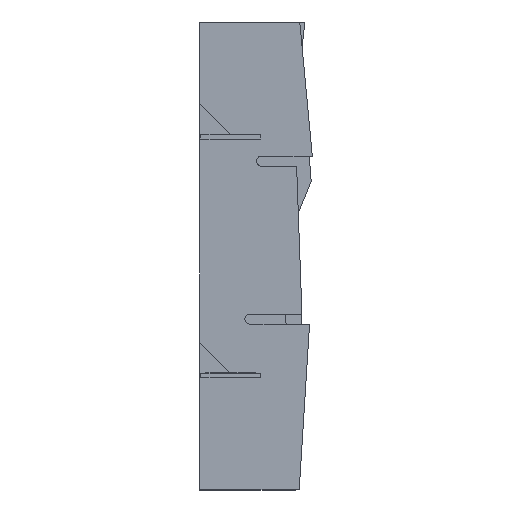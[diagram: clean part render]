
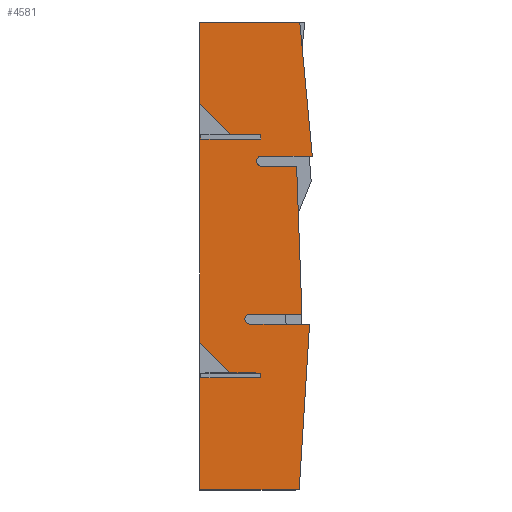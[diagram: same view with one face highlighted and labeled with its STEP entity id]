
A CAD part, left-side view. The second image highlights one B-rep face of the part: STEP entity #4581.
In plain terms, the highlighted planar face has unit normal (-1, 0, 0) as drawn and (0, 0, 1) by its records, which use the part's own axes.
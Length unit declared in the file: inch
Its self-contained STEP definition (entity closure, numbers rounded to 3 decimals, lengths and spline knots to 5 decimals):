
#66=CIRCLE('',#4931,0.49739);
#68=CIRCLE('',#4934,0.49739);
#70=CIRCLE('',#4938,0.49739);
#72=CIRCLE('',#4941,0.49739);
#338=FACE_OUTER_BOUND('',#575,.T.);
#575=EDGE_LOOP('',(#4033,#4034,#4035,#4036,#4037,#4038,#4039,#4040,#4041,
#4042,#4043,#4044,#4045,#4046,#4047,#4048,#4049,#4050,#4051,#4052,#4053,
#4054,#4055,#4056,#4057,#4058,#4059,#4060));
#1104=LINE('',#7238,#1715);
#1110=LINE('',#7259,#1721);
#1114=LINE('',#7266,#1725);
#1117=LINE('',#7272,#1728);
#1120=LINE('',#7280,#1731);
#1124=LINE('',#7287,#1735);
#1126=LINE('',#7290,#1737);
#1129=LINE('',#7296,#1740);
#1147=LINE('',#7330,#1758);
#1148=LINE('',#7332,#1759);
#1150=LINE('',#7337,#1761);
#1152=LINE('',#7340,#1763);
#1154=LINE('',#7344,#1765);
#1156=LINE('',#7348,#1767);
#1158=LINE('',#7353,#1769);
#1161=LINE('',#7358,#1772);
#1163=LINE('',#7362,#1774);
#1165=LINE('',#7367,#1776);
#1168=LINE('',#7372,#1779);
#1169=LINE('',#7374,#1780);
#1170=LINE('',#7377,#1781);
#1171=LINE('',#7378,#1782);
#1172=LINE('',#7379,#1783);
#1173=LINE('',#7380,#1784);
#1715=VECTOR('',#5941,0.3937);
#1721=VECTOR('',#5961,0.3937);
#1725=VECTOR('',#5967,0.3937);
#1728=VECTOR('',#5972,0.3937);
#1731=VECTOR('',#5977,0.3937);
#1735=VECTOR('',#5983,0.3937);
#1737=VECTOR('',#5987,0.3937);
#1740=VECTOR('',#5992,0.3937);
#1758=VECTOR('',#6014,0.3937);
#1759=VECTOR('',#6017,0.3937);
#1761=VECTOR('',#6021,0.3937);
#1763=VECTOR('',#6025,0.3937);
#1765=VECTOR('',#6029,0.3937);
#1767=VECTOR('',#6033,0.3937);
#1769=VECTOR('',#6037,0.3937);
#1772=VECTOR('',#6042,0.3937);
#1774=VECTOR('',#6046,0.3937);
#1776=VECTOR('',#6050,0.3937);
#1779=VECTOR('',#6055,0.3937);
#1780=VECTOR('',#6058,0.3937);
#1781=VECTOR('',#6061,0.3937);
#1782=VECTOR('',#6062,0.3937);
#1783=VECTOR('',#6063,0.3937);
#1784=VECTOR('',#6064,0.3937);
#2164=VERTEX_POINT('',#7220);
#2165=VERTEX_POINT('',#7222);
#2167=VERTEX_POINT('',#7228);
#2170=VERTEX_POINT('',#7235);
#2171=VERTEX_POINT('',#7237);
#2173=VERTEX_POINT('',#7243);
#2175=VERTEX_POINT('',#7249);
#2178=VERTEX_POINT('',#7256);
#2179=VERTEX_POINT('',#7258);
#2181=VERTEX_POINT('',#7264);
#2183=VERTEX_POINT('',#7270);
#2186=VERTEX_POINT('',#7277);
#2187=VERTEX_POINT('',#7279);
#2189=VERTEX_POINT('',#7285);
#2191=VERTEX_POINT('',#7294);
#2205=VERTEX_POINT('',#7328);
#2206=VERTEX_POINT('',#7334);
#2207=VERTEX_POINT('',#7336);
#2208=VERTEX_POINT('',#7342);
#2209=VERTEX_POINT('',#7346);
#2210=VERTEX_POINT('',#7350);
#2211=VERTEX_POINT('',#7352);
#2212=VERTEX_POINT('',#7356);
#2213=VERTEX_POINT('',#7360);
#2214=VERTEX_POINT('',#7364);
#2215=VERTEX_POINT('',#7366);
#2216=VERTEX_POINT('',#7370);
#2217=VERTEX_POINT('',#7376);
#2759=EDGE_CURVE('',#2165,#2164,#66,.T.);
#2763=EDGE_CURVE('',#2164,#2167,#68,.T.);
#2766=EDGE_CURVE('',#2171,#2170,#1104,.T.);
#2770=EDGE_CURVE('',#2170,#2173,#70,.T.);
#2773=EDGE_CURVE('',#2173,#2175,#72,.T.);
#2776=EDGE_CURVE('',#2179,#2178,#1110,.T.);
#2780=EDGE_CURVE('',#2178,#2181,#1114,.T.);
#2783=EDGE_CURVE('',#2181,#2183,#1117,.T.);
#2786=EDGE_CURVE('',#2187,#2186,#1120,.T.);
#2790=EDGE_CURVE('',#2186,#2189,#1124,.T.);
#2792=EDGE_CURVE('',#2189,#2179,#1126,.T.);
#2795=EDGE_CURVE('',#2183,#2191,#1129,.T.);
#2813=EDGE_CURVE('',#2167,#2205,#1147,.T.);
#2814=EDGE_CURVE('',#2205,#2171,#1148,.T.);
#2816=EDGE_CURVE('',#2207,#2206,#1150,.T.);
#2818=EDGE_CURVE('',#2206,#2165,#1152,.T.);
#2820=EDGE_CURVE('',#2175,#2208,#1154,.T.);
#2822=EDGE_CURVE('',#2208,#2209,#1156,.T.);
#2824=EDGE_CURVE('',#2211,#2210,#1158,.T.);
#2827=EDGE_CURVE('',#2210,#2212,#1161,.T.);
#2829=EDGE_CURVE('',#2212,#2213,#1163,.T.);
#2831=EDGE_CURVE('',#2215,#2214,#1165,.T.);
#2834=EDGE_CURVE('',#2214,#2216,#1168,.T.);
#2835=EDGE_CURVE('',#2216,#2211,#1169,.T.);
#2836=EDGE_CURVE('',#2209,#2217,#1170,.T.);
#2837=EDGE_CURVE('',#2217,#2215,#1171,.T.);
#2838=EDGE_CURVE('',#2213,#2187,#1172,.T.);
#2839=EDGE_CURVE('',#2191,#2207,#1173,.T.);
#4033=ORIENTED_EDGE('',*,*,#2813,.T.);
#4034=ORIENTED_EDGE('',*,*,#2814,.T.);
#4035=ORIENTED_EDGE('',*,*,#2766,.T.);
#4036=ORIENTED_EDGE('',*,*,#2770,.T.);
#4037=ORIENTED_EDGE('',*,*,#2773,.T.);
#4038=ORIENTED_EDGE('',*,*,#2820,.T.);
#4039=ORIENTED_EDGE('',*,*,#2822,.T.);
#4040=ORIENTED_EDGE('',*,*,#2836,.T.);
#4041=ORIENTED_EDGE('',*,*,#2837,.T.);
#4042=ORIENTED_EDGE('',*,*,#2831,.T.);
#4043=ORIENTED_EDGE('',*,*,#2834,.T.);
#4044=ORIENTED_EDGE('',*,*,#2835,.T.);
#4045=ORIENTED_EDGE('',*,*,#2824,.T.);
#4046=ORIENTED_EDGE('',*,*,#2827,.T.);
#4047=ORIENTED_EDGE('',*,*,#2829,.T.);
#4048=ORIENTED_EDGE('',*,*,#2838,.T.);
#4049=ORIENTED_EDGE('',*,*,#2786,.T.);
#4050=ORIENTED_EDGE('',*,*,#2790,.T.);
#4051=ORIENTED_EDGE('',*,*,#2792,.T.);
#4052=ORIENTED_EDGE('',*,*,#2776,.T.);
#4053=ORIENTED_EDGE('',*,*,#2780,.T.);
#4054=ORIENTED_EDGE('',*,*,#2783,.T.);
#4055=ORIENTED_EDGE('',*,*,#2795,.T.);
#4056=ORIENTED_EDGE('',*,*,#2839,.T.);
#4057=ORIENTED_EDGE('',*,*,#2816,.T.);
#4058=ORIENTED_EDGE('',*,*,#2818,.T.);
#4059=ORIENTED_EDGE('',*,*,#2759,.T.);
#4060=ORIENTED_EDGE('',*,*,#2763,.T.);
#4344=PLANE('',#4962);
#4581=ADVANCED_FACE('',(#338),#4344,.T.);
#4931=AXIS2_PLACEMENT_3D('',#7223,#5927,#5928);
#4934=AXIS2_PLACEMENT_3D('',#7230,#5935,#5936);
#4938=AXIS2_PLACEMENT_3D('',#7245,#5948,#5949);
#4941=AXIS2_PLACEMENT_3D('',#7251,#5955,#5956);
#4962=AXIS2_PLACEMENT_3D('',#7375,#6059,#6060);
#5927=DIRECTION('center_axis',(0.,0.,-1.));
#5928=DIRECTION('ref_axis',(-0.005,1.,0.));
#5935=DIRECTION('center_axis',(0.,0.,-1.));
#5936=DIRECTION('ref_axis',(1.,-0.005,0.));
#5941=DIRECTION('',(0.,1.,0.));
#5948=DIRECTION('center_axis',(0.,0.,-1.));
#5949=DIRECTION('ref_axis',(-0.005,1.,0.));
#5955=DIRECTION('center_axis',(0.,0.,-1.));
#5956=DIRECTION('ref_axis',(1.,-0.005,0.));
#5961=DIRECTION('',(0.,1.,0.));
#5967=DIRECTION('',(1.,0.,0.));
#5972=DIRECTION('',(0.,1.,0.));
#5977=DIRECTION('',(-0.703,-0.711,0.));
#5983=DIRECTION('',(0.,-1.,0.));
#5987=DIRECTION('',(-1.,0.,0.));
#5992=DIRECTION('',(-1.,0.,0.));
#6014=DIRECTION('',(0.,-1.,0.));
#6017=DIRECTION('',(0.999,0.036,0.));
#6021=DIRECTION('',(0.998,-0.062,0.));
#6025=DIRECTION('',(0.,1.,0.));
#6029=DIRECTION('',(0.,-1.,0.));
#6033=DIRECTION('',(0.996,0.093,0.));
#6037=DIRECTION('',(0.,1.,0.));
#6042=DIRECTION('',(1.,0.,0.));
#6046=DIRECTION('',(0.,1.,0.));
#6050=DIRECTION('',(-0.703,-0.711,0.));
#6055=DIRECTION('',(0.,-1.,0.));
#6058=DIRECTION('',(-1.,0.,0.));
#6059=DIRECTION('center_axis',(0.,0.,1.));
#6060=DIRECTION('ref_axis',(1.,0.,0.));
#6061=DIRECTION('',(0.,1.,0.));
#6062=DIRECTION('',(-1.,0.,0.));
#6063=DIRECTION('',(-1.,0.,0.));
#6064=DIRECTION('',(0.,-1.,0.));
#7220=CARTESIAN_POINT('',(17.16002,5.45844,0.48));
#7222=CARTESIAN_POINT('',(16.66528,4.95844,0.48));
#7223=CARTESIAN_POINT('Origin',(17.16267,4.96106,0.48));
#7228=CARTESIAN_POINT('',(17.65476,4.95844,0.48));
#7230=CARTESIAN_POINT('Origin',(17.15738,4.96106,0.48));
#7235=CARTESIAN_POINT('',(32.52777,3.79834,0.48));
#7237=CARTESIAN_POINT('',(32.52777,0.263,0.48));
#7238=CARTESIAN_POINT('',(32.52777,4.39917,0.48));
#7243=CARTESIAN_POINT('',(33.02251,4.29834,0.48));
#7245=CARTESIAN_POINT('Origin',(33.02515,3.80095,0.48));
#7249=CARTESIAN_POINT('',(33.51724,3.79834,0.48));
#7251=CARTESIAN_POINT('Origin',(33.01986,3.80095,0.48));
#7256=CARTESIAN_POINT('',(11.25,9.375,0.48));
#7258=CARTESIAN_POINT('',(11.25,4.375,0.48));
#7259=CARTESIAN_POINT('',(11.25,7.1875,0.48));
#7264=CARTESIAN_POINT('',(11.495,9.375,0.48));
#7266=CARTESIAN_POINT('',(17.4975,9.375,0.48));
#7270=CARTESIAN_POINT('',(11.495,10.,0.48));
#7272=CARTESIAN_POINT('',(11.495,7.5,0.48));
#7277=CARTESIAN_POINT('',(11.75,6.875,0.48));
#7279=CARTESIAN_POINT('',(14.8409,10.,0.48));
#7280=CARTESIAN_POINT('',(14.18655,9.33843,0.48));
#7285=CARTESIAN_POINT('',(11.75,4.375,0.48));
#7287=CARTESIAN_POINT('',(11.75,4.6875,0.48));
#7290=CARTESIAN_POINT('',(17.375,4.375,0.48));
#7294=CARTESIAN_POINT('',(0.,10.,0.48));
#7296=CARTESIAN_POINT('',(47.,10.,0.48));
#7328=CARTESIAN_POINT('',(17.65476,-0.2772,0.48));
#7330=CARTESIAN_POINT('',(17.65476,4.95844,0.48));
#7332=CARTESIAN_POINT('',(28.10574,0.10239,0.48));
#7334=CARTESIAN_POINT('',(16.66528,-1.03411,0.48));
#7336=CARTESIAN_POINT('',(0.,0.,0.48));
#7337=CARTESIAN_POINT('',(0.,0.,0.48));
#7340=CARTESIAN_POINT('',(16.66528,4.97922,0.48));
#7342=CARTESIAN_POINT('',(33.51724,-1.31917,0.48));
#7344=CARTESIAN_POINT('',(33.51724,3.79834,0.48));
#7346=CARTESIAN_POINT('',(47.,-0.05877,0.48));
#7348=CARTESIAN_POINT('',(33.51724,-1.31917,0.48));
#7350=CARTESIAN_POINT('',(35.25,9.375,0.48));
#7352=CARTESIAN_POINT('',(35.25,4.375,0.48));
#7353=CARTESIAN_POINT('',(35.25,7.1875,0.48));
#7356=CARTESIAN_POINT('',(35.495,9.375,0.48));
#7358=CARTESIAN_POINT('',(29.4975,9.375,0.48));
#7360=CARTESIAN_POINT('',(35.495,10.,0.48));
#7362=CARTESIAN_POINT('',(35.495,7.5,0.48));
#7364=CARTESIAN_POINT('',(35.75,6.875,0.48));
#7366=CARTESIAN_POINT('',(38.8409,10.,0.48));
#7367=CARTESIAN_POINT('',(32.25238,3.33879,0.48));
#7370=CARTESIAN_POINT('',(35.75,4.375,0.48));
#7372=CARTESIAN_POINT('',(35.75,4.6875,0.48));
#7374=CARTESIAN_POINT('',(29.375,4.375,0.48));
#7375=CARTESIAN_POINT('Origin',(23.5,5.,0.48));
#7376=CARTESIAN_POINT('',(47.,10.,0.48));
#7377=CARTESIAN_POINT('',(47.,-0.55767,0.48));
#7378=CARTESIAN_POINT('',(47.,10.,0.48));
#7379=CARTESIAN_POINT('',(47.,10.,0.48));
#7380=CARTESIAN_POINT('',(0.,10.,0.48));
